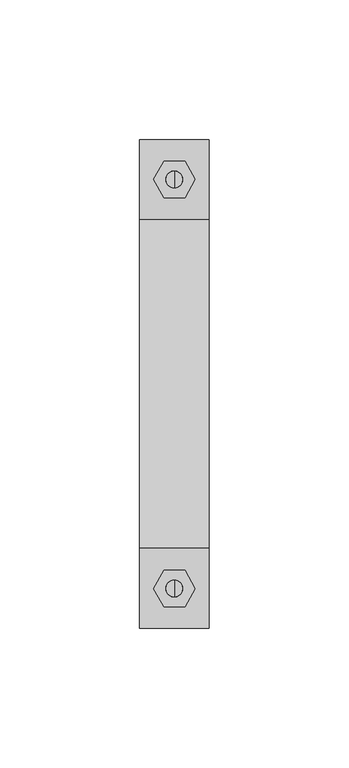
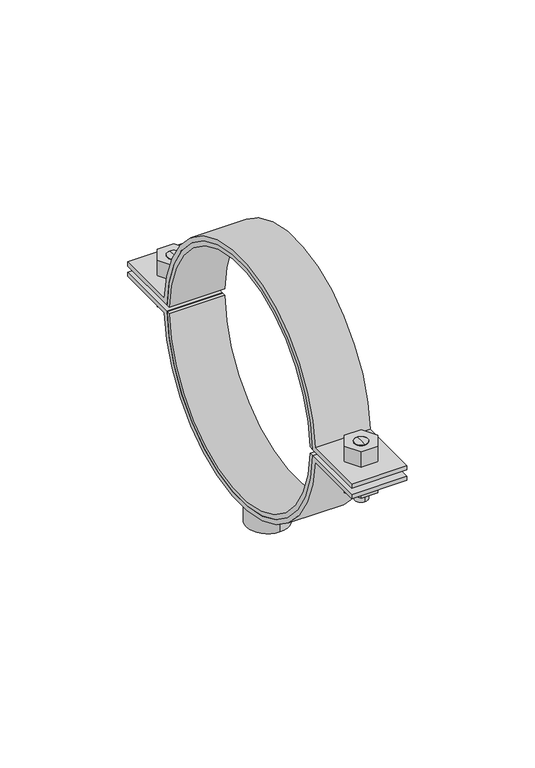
"""IFC4 building model written with IfcOpenShell, lengths in millimetres: valve geometry, Superfix DG2 Clamp (based on pipe) : Superfix DG2 Clamp (based on pipe)."""

from ifc_helpers import new_model, si_unit, point, frame, frame_2d, origin, origin_2d, place, context, project, spatial, polyline, circle_curve, trimmed, segment, composite_curve, outline, extrude, source, transform, mapped, element, save
from ifc_brep_helpers import plane_surface, cylinder_surface, advanced_brep


def valve_00879f87(model_context):
    return source(origin(), model_context, "Body", "SolidModel", [
        advanced_brep(
        [(0.0, 76.25, 342.4002332), (0.0, 70.25, 342.4002332), (0.0, 70.25, 357.0002332), (0.0, 76.25, 357.0002332), (0.0, 73.25, 342.4002332)],
        [
            (0, 1, circle_curve(frame((0.0, 73.25, 342.4002332), z_axis=(0.0, 0.0, 1.0), x_axis=(0.0, 1.0, 0.0)), 3.0)),
            (1, 2),
            (2, 3, circle_curve(frame((0.0, 73.25, 357.0002332), z_axis=(0.0, 0.0, -1.0), x_axis=(0.0, 1.0, 0.0)), 3.0)),
            (3, 0),
            (1, 0, circle_curve(frame((0.0, 73.25, 342.4002332), z_axis=(0.0, 0.0, 1.0), x_axis=(0.0, 1.0, 0.0)), 3.0)),
            (3, 2, circle_curve(frame((0.0, 73.25, 357.0002332), z_axis=(0.0, 0.0, -1.0), x_axis=(0.0, 1.0, 0.0)), 3.0)),
            (0, 4),
            (4, 1),
        ],
        [
            cylinder_surface(frame((0.0, 73.25, 356.7808426), z_axis=(0.0, 0.0, 1.0), x_axis=(0.0, 1.0, 0.0)), 3.0),
            plane_surface(frame((0.0, 73.25, 342.4002332), z_axis=(0.0, 0.0, -1.0), x_axis=(0.0, 1.0, 0.0))),
            plane_surface(frame((13.75, -87.5, 357.0002332), z_axis=(0.0, 0.0, 1.0), x_axis=(-1.0, 0.0, 0.0))),
        ],
        [
            (0, [[1, 2, 3, 4]]),
            (0, [[5, -4, 6, -2]]),
            (1, [[-1, 7, 8]]),
            (1, [[-5, -8, -7]]),
            (2, [[-3, -6]]),
        ],
    ),
        advanced_brep(
        [(0.0, 70.25, 369.6002332), (0.0, 76.25, 369.6002332), (0.0, 76.25, 360.0002332), (0.0, 70.25, 360.0002332), (0.0, 73.25, 369.6002332)],
        [
            (0, 1, circle_curve(frame((0.0, 73.25, 369.6002332), z_axis=(0.0, 0.0, -1.0), x_axis=(0.0, 1.0, 0.0)), 3.0)),
            (1, 2),
            (2, 3, circle_curve(frame((0.0, 73.25, 360.0002332), z_axis=(0.0, 0.0, 1.0), x_axis=(0.0, 1.0, 0.0)), 3.0)),
            (3, 0),
            (1, 0, circle_curve(frame((0.0, 73.25, 369.6002332), z_axis=(0.0, 0.0, -1.0), x_axis=(0.0, 1.0, 0.0)), 3.0)),
            (3, 2, circle_curve(frame((0.0, 73.25, 360.0002332), z_axis=(0.0, 0.0, 1.0), x_axis=(0.0, 1.0, 0.0)), 3.0)),
            (0, 4),
            (4, 1),
        ],
        [
            cylinder_surface(frame((0.0, 73.25, 356.7808426), z_axis=(0.0, 0.0, 1.0), x_axis=(0.0, 1.0, 0.0)), 3.0),
            plane_surface(frame((0.0, 73.25, 369.6002332), z_axis=(0.0, 0.0, 1.0), x_axis=(0.0, 1.0, 0.0))),
            plane_surface(frame((13.75, 87.5, 360.0002332), z_axis=(0.0, 0.0, -1.0), x_axis=(-1.0, 0.0, 0.0))),
        ],
        [
            (0, [[1, 2, 3, 4]]),
            (0, [[5, -4, 6, -2]]),
            (1, [[-1, 7, 8]]),
            (1, [[-5, -8, -7]]),
            (2, [[-3, -6]]),
        ],
    ),
        advanced_brep(
        [(0.0, -76.25, 369.6002332), (0.0, -70.25, 369.6002332), (0.0, -70.25, 360.0002332), (0.0, -76.25, 360.0002332), (0.0, -73.25, 369.6002332)],
        [
            (0, 1, circle_curve(frame((0.0, -73.25, 369.6002332), z_axis=(0.0, 0.0, -1.0), x_axis=(0.0, -1.0, 0.0)), 3.0)),
            (1, 2),
            (2, 3, circle_curve(frame((0.0, -73.25, 360.0002332), z_axis=(0.0, 0.0, 1.0), x_axis=(0.0, -1.0, 0.0)), 3.0)),
            (3, 0),
            (1, 0, circle_curve(frame((0.0, -73.25, 369.6002332), z_axis=(0.0, 0.0, -1.0), x_axis=(0.0, -1.0, 0.0)), 3.0)),
            (3, 2, circle_curve(frame((0.0, -73.25, 360.0002332), z_axis=(0.0, 0.0, 1.0), x_axis=(0.0, -1.0, 0.0)), 3.0)),
            (0, 4),
            (4, 1),
        ],
        [
            cylinder_surface(frame((0.0, -73.25, 356.7808426), z_axis=(0.0, 0.0, -1.0), x_axis=(0.0, -1.0, 0.0)), 3.0),
            plane_surface(frame((0.0, -73.25, 369.6002332), z_axis=(0.0, 0.0, 1.0), x_axis=(0.0, -1.0, 0.0))),
            plane_surface(frame((13.75, 87.5, 360.0002332), z_axis=(0.0, 0.0, -1.0), x_axis=(-1.0, 0.0, 0.0))),
        ],
        [
            (0, [[1, 2, 3, 4]]),
            (0, [[5, -4, 6, -2]]),
            (1, [[-1, 7, 8]]),
            (1, [[-5, -8, -7]]),
            (2, [[-3, -6]]),
        ],
    ),
        advanced_brep(
        [(0.0, -70.25, 342.4002332), (0.0, -76.25, 342.4002332), (0.0, -76.25, 357.0002332), (0.0, -70.25, 357.0002332), (0.0, -73.25, 342.4002332)],
        [
            (0, 1, circle_curve(frame((0.0, -73.25, 342.4002332), z_axis=(0.0, 0.0, 1.0), x_axis=(0.0, -1.0, 0.0)), 3.0)),
            (1, 2),
            (2, 3, circle_curve(frame((0.0, -73.25, 357.0002332), z_axis=(0.0, 0.0, -1.0), x_axis=(0.0, -1.0, 0.0)), 3.0)),
            (3, 0),
            (1, 0, circle_curve(frame((0.0, -73.25, 342.4002332), z_axis=(0.0, 0.0, 1.0), x_axis=(0.0, -1.0, 0.0)), 3.0)),
            (3, 2, circle_curve(frame((0.0, -73.25, 357.0002332), z_axis=(0.0, 0.0, -1.0), x_axis=(0.0, -1.0, 0.0)), 3.0)),
            (0, 4),
            (4, 1),
        ],
        [
            cylinder_surface(frame((0.0, -73.25, 356.7808426), z_axis=(0.0, 0.0, -1.0), x_axis=(0.0, -1.0, 0.0)), 3.0),
            plane_surface(frame((0.0, -73.25, 342.4002332), z_axis=(0.0, 0.0, -1.0), x_axis=(0.0, -1.0, 0.0))),
            plane_surface(frame((13.75, -87.5, 357.0002332), z_axis=(0.0, 0.0, 1.0), x_axis=(-1.0, 0.0, 0.0))),
        ],
        [
            (0, [[1, 2, 3, 4]]),
            (0, [[5, -4, 6, -2]]),
            (1, [[-1, 7, 8]]),
            (1, [[-5, -8, -7]]),
            (2, [[-3, -6]]),
        ],
    ),
        extrude(outline(composite_curve([segment(trimmed(circle_curve(frame_2d((0.0, 358.5002332)), 57.0), [point((-56.9802597, 357.0002332))], [point((56.9802597, 357.0002332))], True, "CARTESIAN"), True, "CONTINUOUS"), segment(polyline([(56.9802597, 357.0002332), (87.5, 357.0002332), (87.5, 355.0002332), (58.8960949, 355.0002332)]), True, "CONTINUOUS"), segment(trimmed(circle_curve(frame_2d((0.0, 358.5002332)), 59.0), [point((58.8960949, 355.0002332))], [point((-58.8960949, 355.0002332))], False, "CARTESIAN"), True, "CONTINUOUS"), segment(polyline([(-58.8960949, 355.0002332), (-87.5, 355.0002332), (-87.5, 357.0002332), (-56.9802597, 357.0002332)]), True, "CONTINUOUS")], self_intersect=False)), frame((-12.5, 0.0, 0.0), z_axis=(1.0, 0.0, 0.0), x_axis=(0.0, 1.0, 0.0)), (0.0, 0.0, 1.0), 25.0),
        extrude(outline(composite_curve([segment(trimmed(circle_curve(frame_2d((0.0, 358.5002332)), 57.0), [point((56.9802597, 360.0002332))], [point((-56.9802597, 360.0002332))], True, "CARTESIAN"), True, "CONTINUOUS"), segment(polyline([(-56.9802597, 360.0002332), (-87.5, 360.0002332), (-87.5, 362.0002332), (-58.8960949, 362.0002332)]), True, "CONTINUOUS"), segment(trimmed(circle_curve(frame_2d((0.0, 358.5002332)), 59.0), [point((-58.8960949, 362.0002332))], [point((58.8960949, 362.0002332))], False, "CARTESIAN"), True, "CONTINUOUS"), segment(polyline([(58.8960949, 362.0002332), (87.5, 362.0002332), (87.5, 360.0002332), (56.9802597, 360.0002332)]), True, "CONTINUOUS")], self_intersect=False)), frame((-12.5, 0.0, 0.0), z_axis=(1.0, 0.0, 0.0), x_axis=(0.0, 1.0, 0.0)), (0.0, 0.0, 1.0), 25.0),
        extrude(outline(polyline([(7.5055535, -73.25), (3.7527767, -79.75), (-3.7527767, -79.75), (-7.5055535, -73.25), (-3.7527767, -66.75), (3.7527767, -66.75), (7.5055535, -73.25)]), holes=[composite_curve([segment(trimmed(circle_curve(frame_2d((0.0, -73.25)), 3.0), [point((3.0, -73.25))], [point((-3.0, -73.25))], True, "CARTESIAN"), True, "CONTINUOUS"), segment(trimmed(circle_curve(frame_2d((0.0, -73.25)), 3.0), [point((-3.0, -73.25))], [point((3.0, -73.25))], True, "CARTESIAN"), True, "CONTINUOUS")], self_intersect=False)]), frame((0.0, 0.0, 362.0002332), z_axis=(0.0, 0.0, 1.0), x_axis=(1.0, 0.0, 0.0)), (0.0, 0.0, 1.0), 7.6),
        extrude(outline(polyline([(7.5055535, 73.25), (3.7527767, 66.75), (-3.7527767, 66.75), (-7.5055535, 73.25), (-3.7527767, 79.75), (3.7527767, 79.75), (7.5055535, 73.25)]), holes=[composite_curve([segment(trimmed(circle_curve(frame_2d((0.0, 73.25)), 3.0), [point((3.0, 73.25))], [point((-3.0, 73.25))], True, "CARTESIAN"), True, "CONTINUOUS"), segment(trimmed(circle_curve(frame_2d((0.0, 73.25)), 3.0), [point((-3.0, 73.25))], [point((3.0, 73.25))], True, "CARTESIAN"), True, "CONTINUOUS")], self_intersect=False)]), frame((0.0, 0.0, 362.0002332), z_axis=(0.0, 0.0, 1.0), x_axis=(1.0, 0.0, 0.0)), (0.0, 0.0, 1.0), 7.6),
        extrude(outline(polyline([(7.5055535, -73.25), (3.7527767, -79.75), (-3.7527767, -79.75), (-7.5055535, -73.25), (-3.7527767, -66.75), (3.7527767, -66.75), (7.5055535, -73.25)]), holes=[composite_curve([segment(trimmed(circle_curve(frame_2d((0.0, -73.25)), 3.0), [point((3.0, -73.25))], [point((-3.0, -73.25))], True, "CARTESIAN"), True, "CONTINUOUS"), segment(trimmed(circle_curve(frame_2d((0.0, -73.25)), 3.0), [point((-3.0, -73.25))], [point((3.0, -73.25))], True, "CARTESIAN"), True, "CONTINUOUS")], self_intersect=False)]), frame((0.0, 0.0, 347.4002332), z_axis=(0.0, 0.0, 1.0), x_axis=(1.0, 0.0, 0.0)), (0.0, 0.0, 1.0), 7.6),
        extrude(outline(polyline([(7.5055535, 73.25), (3.7527767, 66.75), (-3.7527767, 66.75), (-7.5055535, 73.25), (-3.7527767, 79.75), (3.7527767, 79.75), (7.5055535, 73.25)]), holes=[composite_curve([segment(trimmed(circle_curve(frame_2d((0.0, 73.25)), 3.0), [point((3.0, 73.25))], [point((-3.0, 73.25))], True, "CARTESIAN"), True, "CONTINUOUS"), segment(trimmed(circle_curve(frame_2d((0.0, 73.25)), 3.0), [point((-3.0, 73.25))], [point((3.0, 73.25))], True, "CARTESIAN"), True, "CONTINUOUS")], self_intersect=False)]), frame((0.0, 0.0, 347.4002332), z_axis=(0.0, 0.0, 1.0), x_axis=(1.0, 0.0, 0.0)), (0.0, 0.0, 1.0), 7.6),
        extrude(outline(composite_curve([segment(trimmed(circle_curve(origin_2d(), 9.5), [point((0.0, 9.5))], [point((0.0, -9.5))], False, "CARTESIAN"), True, "CONTINUOUS"), segment(trimmed(circle_curve(origin_2d(), 9.5), [point((0.0, -9.5))], [point((0.0, 9.5))], False, "CARTESIAN"), True, "CONTINUOUS")], self_intersect=False), holes=[composite_curve([segment(trimmed(circle_curve(origin_2d(), 6.0), [point((0.0, 6.0))], [point((0.0, -6.0))], True, "CARTESIAN"), True, "CONTINUOUS"), segment(trimmed(circle_curve(origin_2d(), 6.0), [point((0.0, -6.0))], [point((0.0, 6.0))], True, "CARTESIAN"), True, "CONTINUOUS")], self_intersect=False)]), frame((0.0, 0.0, 287.5002332), z_axis=(0.0, 0.0, 1.0), x_axis=(1.0, 0.0, 0.0)), (0.0, 0.0, 1.0), 14.0),
        extrude(outline(composite_curve([segment(trimmed(circle_curve(frame_2d((0.0, 358.5002332)), 55.0), [point((54.9795416, 360.0002332))], [point((-54.9795416, 360.0002332))], True, "CARTESIAN"), True, "CONTINUOUS"), segment(polyline([(-54.9795416, 360.0002332), (-56.9802597, 360.0002332)]), True, "CONTINUOUS"), segment(trimmed(circle_curve(frame_2d((0.0, 358.5002332)), 57.0), [point((-56.9802597, 360.0002332))], [point((56.9802597, 360.0002332))], False, "CARTESIAN"), True, "CONTINUOUS"), segment(polyline([(56.9802597, 360.0002332), (54.9795416, 360.0002332)]), True, "CONTINUOUS")], self_intersect=False)), frame((-12.5, 0.0, 0.0), z_axis=(1.0, 0.0, 0.0), x_axis=(0.0, 1.0, 0.0)), (0.0, 0.0, 1.0), 25.0),
        extrude(outline(composite_curve([segment(polyline([(54.9795416, 357.0002332), (56.9802597, 357.0002332)]), True, "CONTINUOUS"), segment(trimmed(circle_curve(frame_2d((0.0, 358.5002332)), 57.0), [point((56.9802597, 357.0002332))], [point((-56.9802597, 357.0002332))], False, "CARTESIAN"), True, "CONTINUOUS"), segment(polyline([(-56.9802597, 357.0002332), (-54.9795416, 357.0002332)]), True, "CONTINUOUS"), segment(trimmed(circle_curve(frame_2d((0.0, 358.5002332)), 55.0), [point((-54.9795416, 357.0002332))], [point((54.9795416, 357.0002332))], True, "CARTESIAN"), True, "CONTINUOUS")], self_intersect=False)), frame((-12.5, 0.0, 0.0), z_axis=(1.0, 0.0, 0.0), x_axis=(0.0, 1.0, 0.0)), (0.0, 0.0, 1.0), 25.0),
    ])


if __name__ == "__main__":
    model = new_model("IFC4")
    model_context = context("Model", 3, world=origin())
    ifc_project = project(units=[si_unit("LENGTHUNIT", "METRE", prefix="MILLI")], contexts=[model_context])
    site = spatial("IfcSite", under=ifc_project)
    building = spatial("IfcBuilding", under=site)
    placement = place(None, origin())
    valve_shape = valve_00879f87(model_context)
    element("IfcValve", 1, ObjectType="Superfix DG2 Clamp (based on pipe) : Superfix DG2 Clamp (based on pipe)", at=placement, inside=building, context=model_context, shape_type="MappedRepresentation", body=[
        mapped(valve_shape, transform((0.0, 0.0, 0.0), x_axis=(1.0, 0.0, 0.0), y_axis=(0.0, 1.0, 0.0), z_axis=(0.0, 0.0, 1.0))),
    ])
    save(model, "model.ifc")
